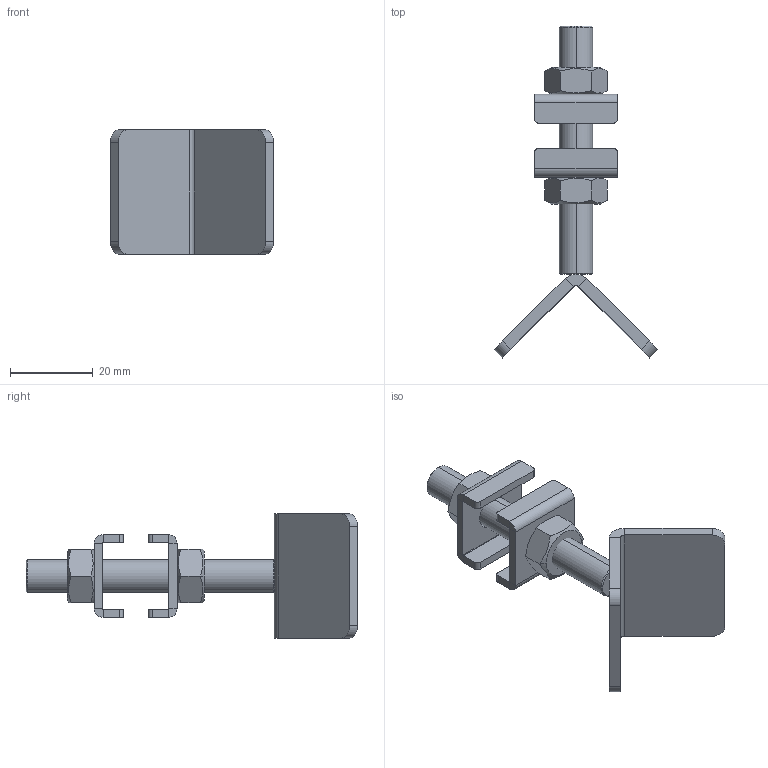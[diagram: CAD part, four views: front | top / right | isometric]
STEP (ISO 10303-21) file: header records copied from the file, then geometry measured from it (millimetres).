
FILE_DESCRIPTION (( 'STEP AP203' ), '1' );
FILE_NAME ('PCA-M8.STEP', '2011-05-23T20:04:44', ( 'Usuario' ), ( '' ), 'SwSTEP 2.0', 'SolidWorks 2011', '' );
FILE_SCHEMA (( 'CONFIG_CONTROL_DESIGN' ));
Length unit declared in the file: millimetre
Products named in the file (5): PCA-M8; 14.10001; 20.20016; 11.50002; 20.20018
Assembly tree (6 placements, depth 2):
  PCA-M8
    20.20016
    11.50002  x2
    14.10001  x2
    20.20018
Bounding box: 39.6 x 80.19 x 30 mm (x, y, z)
Volume: 10791.6 mm3; surface area: 8963.6 mm2
Topology: 6 solids, 6 shells, 118 faces, 266 edges, 160 vertices
Faces by surface type: plane 66, cylinder 32, cone 20
Entity records: 2659 total; most frequent: CARTESIAN_POINT 461, DIRECTION 366, ORIENTED_EDGE 320, EDGE_CURVE 160, AXIS2_PLACEMENT_3D 137, VERTEX_POINT 96, LINE 92, VECTOR 92
